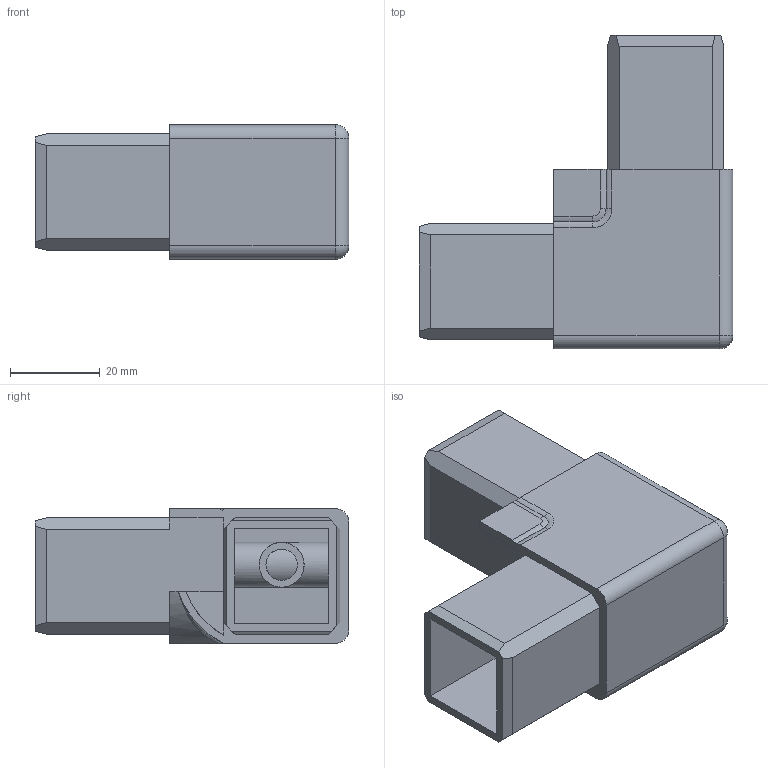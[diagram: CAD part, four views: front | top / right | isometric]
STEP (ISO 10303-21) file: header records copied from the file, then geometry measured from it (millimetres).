
FILE_DESCRIPTION (( 'STEP AP214' ), '1' );
FILE_NAME ('L15838.step', '2024-12-03T16:19:40', ( '' ), ( '' ), 'SwSTEP 2.0', 'SolidWorks 2023', '' );
FILE_SCHEMA (( 'AUTOMOTIVE_DESIGN' ));
Length unit declared in the file: millimetre
Products named in the file (1): L15838
Bounding box: 70 x 70 x 30 mm (x, y, z)
Volume: 30432.9 mm3; surface area: 26418.8 mm2
Topology: 1 solids, 4 shells, 89 faces, 228 edges, 147 vertices
Faces by surface type: plane 55, cylinder 29, torus 2, sphere 2, bspline 1
Full cylindrical faces by diameter (mm): 7 x4, 10 x4
Entity records: 3043 total; most frequent: CARTESIAN_POINT 953, ORIENTED_EDGE 426, DIRECTION 406, EDGE_CURVE 213, VECTOR 162, LINE 162, VERTEX_POINT 142, AXIS2_PLACEMENT_3D 122
